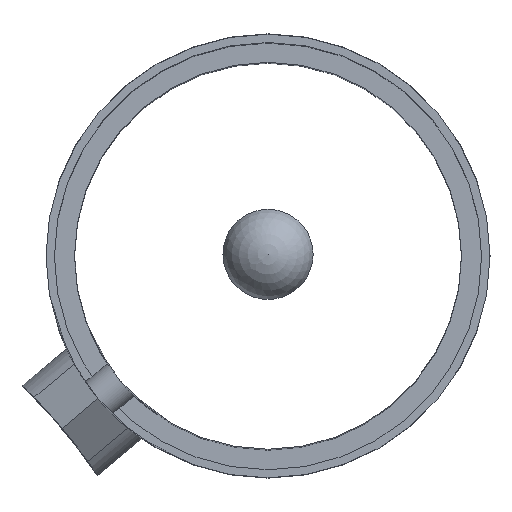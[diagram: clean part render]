
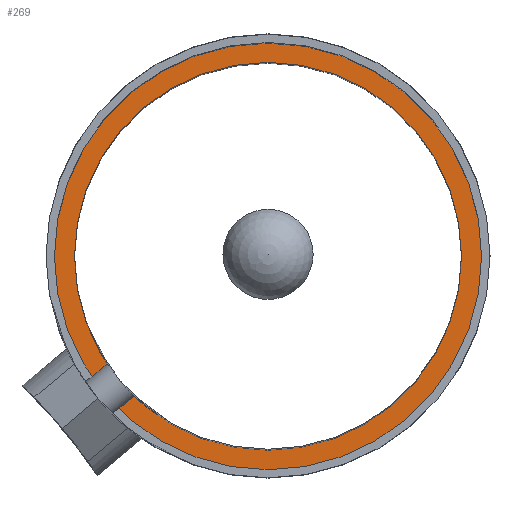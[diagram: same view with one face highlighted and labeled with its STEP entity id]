
A CAD part, top view. The second image highlights one B-rep face of the part: STEP entity #269.
In plain terms, the highlighted planar face has unit normal (0, 0, -1).
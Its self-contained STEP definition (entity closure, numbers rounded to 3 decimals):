
#29=FACE_BOUND('',#68,.T.);
#32=PLANE('',#311);
#38=CIRCLE('',#309,12.725);
#40=CIRCLE('',#312,11.525);
#50=FACE_OUTER_BOUND('',#67,.T.);
#67=EDGE_LOOP('',(#193));
#68=EDGE_LOOP('',(#194));
#123=VERTEX_POINT('',#509);
#125=VERTEX_POINT('',#515);
#149=EDGE_CURVE('',#123,#123,#38,.T.);
#152=EDGE_CURVE('',#125,#125,#40,.T.);
#193=ORIENTED_EDGE('',*,*,#149,.T.);
#194=ORIENTED_EDGE('',*,*,#152,.F.);
#269=ADVANCED_FACE('',(#50,#29),#32,.T.);
#309=AXIS2_PLACEMENT_3D('',#510,#349,#350);
#311=AXIS2_PLACEMENT_3D('',#514,#354,#355);
#312=AXIS2_PLACEMENT_3D('',#516,#356,#357);
#349=DIRECTION('center_axis',(0.,0.,-1.));
#350=DIRECTION('ref_axis',(0.766,0.643,0.));
#354=DIRECTION('center_axis',(0.,0.,-1.));
#355=DIRECTION('ref_axis',(-0.766,-0.643,0.));
#356=DIRECTION('center_axis',(0.,0.,-1.));
#357=DIRECTION('ref_axis',(0.766,0.643,0.));
#509=CARTESIAN_POINT('',(26.065,21.871,248.363));
#510=CARTESIAN_POINT('Origin',(35.813,30.05,248.363));
#514=CARTESIAN_POINT('Origin',(44.641,37.458,248.363));
#515=CARTESIAN_POINT('',(26.984,22.642,248.363));
#516=CARTESIAN_POINT('Origin',(35.813,30.05,248.363));
